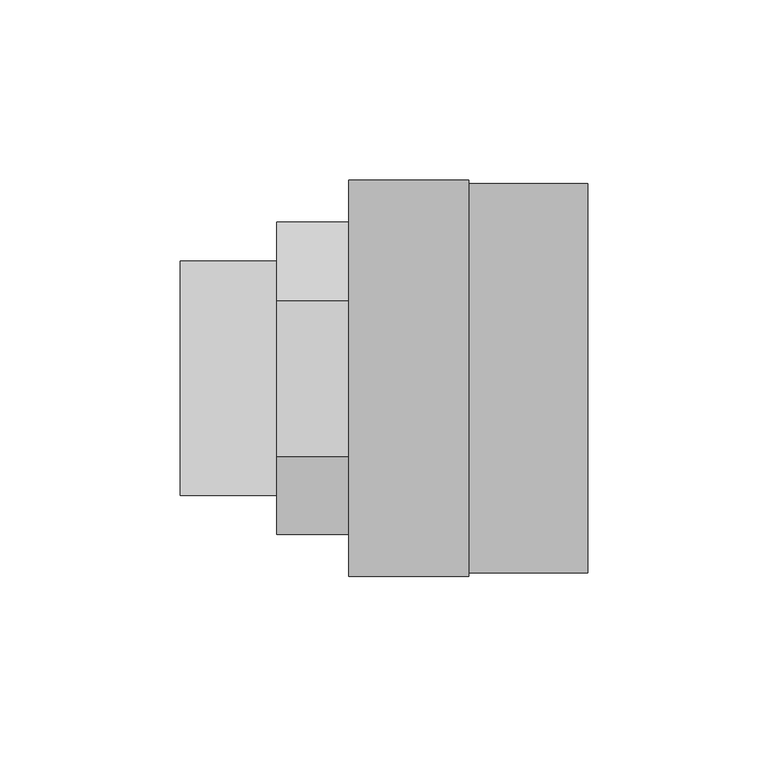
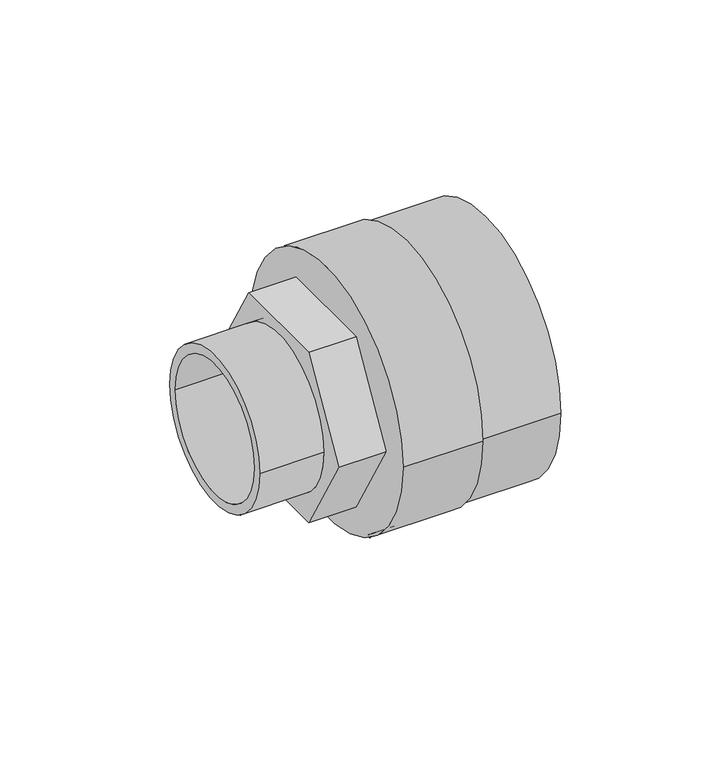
"""IFC4 building model written with IfcOpenShell, lengths in millimetres: pipe fitting geometry, NIRON RED termofusion roscado enlace rosca macho hexagonal : Estándar."""

from ifc_helpers import new_model, si_unit, point, frame, origin, origin_2d, place, context, project, spatial, polyline, circle_curve, trimmed, segment, composite_curve, outline, extrude, source, transform, mapped, element, save
from ifc_brep_helpers import plane_surface, cylinder_surface, revolved_surface, advanced_brep


def pipe_fitting_97e1301d(model_context):
    return source(origin(), model_context, "Body", "SolidModel", [
        extrude(outline(composite_curve([segment(trimmed(circle_curve(origin_2d(), 32.5), [point((-32.5, 0.0))], [point((32.5, 0.0))], False, "CARTESIAN"), True, "CONTINUOUS"), segment(trimmed(circle_curve(origin_2d(), 32.5), [point((32.5, 0.0))], [point((-32.5, 0.0))], False, "CARTESIAN"), True, "CONTINUOUS")], self_intersect=False), holes=[composite_curve([segment(trimmed(circle_curve(origin_2d(), 28.5), [point((-28.5, 0.0))], [point((28.5, 0.0))], True, "CARTESIAN"), True, "CONTINUOUS"), segment(trimmed(circle_curve(origin_2d(), 28.5), [point((28.5, 0.0))], [point((-28.5, 0.0))], True, "CARTESIAN"), True, "CONTINUOUS")], self_intersect=False)]), frame((-26.7, 0.0, 0.0), z_axis=(1.0, 0.0, 0.0), x_axis=(0.0, 1.0, 0.0)), (0.0, 0.0, 1.0), 26.7),
        advanced_brep(
        [(53.3, 55.0, 0.0), (53.3, -55.0, 0.0), (20.0, 55.0, 0.0), (20.0, -55.0, 0.0), (20.0, -32.5, 0.0), (20.0, 32.5, 0.0), (23.7, 32.5, 0.0), (23.7, -32.5, 0.0)],
        [
            (0, 1, circle_curve(frame((53.3, 0.0, 0.0), z_axis=(1.0, 0.0, 0.0), x_axis=(0.0, -1.0, 0.0)), 55.0)),
            (1, 0, circle_curve(frame((53.3, 0.0, 0.0), z_axis=(1.0, 0.0, 0.0), x_axis=(0.0, -1.0, 0.0)), 55.0)),
            (2, 3, circle_curve(frame((20.0, 0.0, 0.0), z_axis=(-1.0, 0.0, 0.0), x_axis=(0.0, -1.0, 0.0)), 55.0)),
            (3, 2, circle_curve(frame((20.0, 0.0, 0.0), z_axis=(-1.0, 0.0, 0.0), x_axis=(0.0, -1.0, 0.0)), 55.0)),
            (4, 5, circle_curve(frame((20.0, 0.0, 0.0), z_axis=(1.0, 0.0, 0.0), x_axis=(0.0, -1.0, 0.0)), 32.5)),
            (5, 4, circle_curve(frame((20.0, 0.0, 0.0), z_axis=(1.0, 0.0, 0.0), x_axis=(0.0, -1.0, 0.0)), 32.5)),
            (1, 3),
            (2, 0),
            (6, 7, circle_curve(frame((23.7, 0.0, 0.0), z_axis=(-1.0, 0.0, 0.0), x_axis=(0.0, -1.0, 0.0)), 32.5)),
            (7, 6, circle_curve(frame((23.7, 0.0, 0.0), z_axis=(-1.0, 0.0, 0.0), x_axis=(0.0, -1.0, 0.0)), 32.5)),
            (6, 5),
            (4, 7),
        ],
        [
            plane_surface(frame((53.3, -55.0, 0.0), z_axis=(1.0, 0.0, 0.0), x_axis=(0.0, 0.0, -1.0))),
            plane_surface(frame((20.0, -55.0, 0.0), z_axis=(-1.0, 0.0, 0.0), x_axis=(0.0, 0.0, 1.0))),
            cylinder_surface(frame((53.3, 0.0, 0.0), z_axis=(-1.0, 0.0, 0.0), x_axis=(0.0, -1.0, 0.0)), 55.0),
            plane_surface(frame((23.7, -32.5, 0.0), z_axis=(-1.0, 0.0, 0.0), x_axis=(0.0, 0.0, -1.0))),
            revolved_surface(polyline([(20.0, -32.5, 0.0), (23.7, -32.5, 0.0)]), (23.7, 0.0, 0.0), (-1.0, 0.0, 0.0)),
        ],
        [
            (0, [[1, 2]]),
            (1, [[3, 4], [5, 6]]),
            (2, [[-2, 7, -3, 8]]),
            (2, [[-1, -8, -4, -7]]),
            (3, [[9, 10]]),
            (4, [[-9, 11, -5, 12]]),
            (4, [[-10, -12, -6, -11]]),
        ],
    ),
        advanced_brep(
        [(20.0, 54.0, 0.0), (20.0, -54.0, 0.0), (20.0, -32.5, 0.0), (20.0, 32.5, 0.0), (86.3, 54.0, 0.0), (86.3, -54.0, 0.0), (23.7, 32.5, 0.0), (23.7, -32.5, 0.0)],
        [
            (0, 1, circle_curve(frame((20.0, 0.0, 0.0), z_axis=(-1.0, 0.0, 0.0), x_axis=(0.0, -1.0, 0.0)), 54.0)),
            (1, 0, circle_curve(frame((20.0, 0.0, 0.0), z_axis=(-1.0, 0.0, 0.0), x_axis=(0.0, -1.0, 0.0)), 54.0)),
            (2, 3, circle_curve(frame((20.0, 0.0, 0.0), z_axis=(1.0, 0.0, 0.0), x_axis=(0.0, -1.0, 0.0)), 32.5)),
            (3, 2, circle_curve(frame((20.0, 0.0, 0.0), z_axis=(1.0, 0.0, 0.0), x_axis=(0.0, -1.0, 0.0)), 32.5)),
            (4, 5, circle_curve(frame((86.3, 0.0, 0.0), z_axis=(1.0, 0.0, 0.0), x_axis=(0.0, -1.0, 0.0)), 54.0)),
            (5, 4, circle_curve(frame((86.3, 0.0, 0.0), z_axis=(1.0, 0.0, 0.0), x_axis=(0.0, -1.0, 0.0)), 54.0)),
            (0, 4),
            (5, 1),
            (6, 7, circle_curve(frame((23.7, 0.0, 0.0), z_axis=(-1.0, 0.0, 0.0), x_axis=(0.0, -1.0, 0.0)), 32.5)),
            (7, 6, circle_curve(frame((23.7, 0.0, 0.0), z_axis=(-1.0, 0.0, 0.0), x_axis=(0.0, -1.0, 0.0)), 32.5)),
            (6, 3),
            (2, 7),
        ],
        [
            plane_surface(frame((20.0, -54.0, 0.0), z_axis=(-1.0, 0.0, 0.0), x_axis=(0.0, 0.0, 1.0))),
            plane_surface(frame((86.3, -54.0, 0.0), z_axis=(1.0, 0.0, 0.0), x_axis=(0.0, 0.0, -1.0))),
            cylinder_surface(frame((86.3, 0.0, 0.0), z_axis=(-1.0, 0.0, 0.0), x_axis=(0.0, -1.0, 0.0)), 54.0),
            plane_surface(frame((23.7, -32.5, 0.0), z_axis=(-1.0, 0.0, 0.0), x_axis=(0.0, 0.0, -1.0))),
            revolved_surface(polyline([(20.0, -32.5, 0.0), (23.7, -32.5, 0.0)]), (23.7, 0.0, 0.0), (-1.0, 0.0, 0.0)),
        ],
        [
            (0, [[1, 2], [3, 4]]),
            (1, [[5, 6]]),
            (2, [[-1, 7, -6, 8]]),
            (2, [[-2, -8, -5, -7]]),
            (3, [[9, 10]]),
            (4, [[-9, 11, -3, 12]]),
            (4, [[-10, -12, -4, -11]]),
        ],
    ),
        advanced_brep(
        [(45.0, -21.6506351, -37.5), (45.0, 21.6506351, -37.5), (45.0, 43.3012702, 0.0), (45.0, 21.6506351, 37.5), (45.0, -21.6506351, 37.5), (45.0, -43.3012702, 0.0), (0.0, -21.6506351, -37.5), (0.0, -43.3012702, 0.0), (0.0, -21.6506351, 37.5), (0.0, 21.6506351, 37.5), (0.0, 43.3012702, 0.0), (0.0, 21.6506351, -37.5), (0.0, -32.5, 0.0), (0.0, 32.5, 0.0), (23.7, 32.5, 0.0), (23.7, -32.5, 0.0)],
        [
            (0, 1),
            (1, 2),
            (2, 3),
            (3, 4),
            (4, 5),
            (5, 0),
            (6, 7),
            (7, 8),
            (8, 9),
            (9, 10),
            (10, 11),
            (11, 6),
            (12, 13, circle_curve(frame((0.0, 0.0, 0.0), z_axis=(1.0, 0.0, 0.0), x_axis=(0.0, -1.0, 0.0)), 32.5)),
            (13, 12, circle_curve(frame((0.0, 0.0, 0.0), z_axis=(1.0, 0.0, 0.0), x_axis=(0.0, -1.0, 0.0)), 32.5)),
            (0, 6),
            (11, 1),
            (10, 2),
            (9, 3),
            (8, 4),
            (7, 5),
            (14, 15, circle_curve(frame((23.7, 0.0, 0.0), z_axis=(-1.0, 0.0, 0.0), x_axis=(0.0, -1.0, 0.0)), 32.5)),
            (15, 14, circle_curve(frame((23.7, 0.0, 0.0), z_axis=(-1.0, 0.0, 0.0), x_axis=(0.0, -1.0, 0.0)), 32.5)),
            (14, 13),
            (12, 15),
        ],
        [
            plane_surface(frame((45.0, 0.0, 0.0), z_axis=(1.0, 0.0, 0.0), x_axis=(0.0, 0.0, 1.0))),
            plane_surface(frame((0.0, 0.0, 0.0), z_axis=(-1.0, 0.0, 0.0), x_axis=(0.0, 0.0, 1.0))),
            plane_surface(frame((45.0, -21.6506351, -37.5), z_axis=(0.0, 0.0, -1.0), x_axis=(-1.0, 0.0, 0.0))),
            plane_surface(frame((45.0, 21.6506351, -37.5), z_axis=(0.0, 0.8660254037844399, -0.4999999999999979), x_axis=(-1.0, 0.0, 0.0))),
            plane_surface(frame((45.0, 43.3012702, 0.0), z_axis=(0.0, 0.866025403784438, 0.500000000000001), x_axis=(-1.0, 0.0, 0.0))),
            plane_surface(frame((45.0, 21.6506351, 37.5), z_axis=(0.0, 0.0, 1.0), x_axis=(-1.0, 0.0, 0.0))),
            plane_surface(frame((45.0, -21.6506351, 37.5), z_axis=(0.0, -0.8660254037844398, 0.49999999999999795), x_axis=(-1.0, 0.0, 0.0))),
            plane_surface(frame((45.0, -43.3012702, 0.0), z_axis=(0.0, -0.8660254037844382, -0.500000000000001), x_axis=(-1.0, 0.0, 0.0))),
            plane_surface(frame((23.7, -32.5, 0.0), z_axis=(-1.0, 0.0, 0.0), x_axis=(0.0, 0.0, -1.0))),
            revolved_surface(polyline([(0.0, -32.5, 0.0), (23.7, -32.5, 0.0)]), (23.7, 0.0, 0.0), (-1.0, 0.0, 0.0)),
        ],
        [
            (0, [[1, 2, 3, 4, 5, 6]]),
            (1, [[7, 8, 9, 10, 11, 12], [13, 14]]),
            (2, [[-1, 15, -12, 16]]),
            (3, [[-2, -16, -11, 17]]),
            (4, [[-3, -17, -10, 18]]),
            (5, [[-4, -18, -9, 19]]),
            (6, [[-5, -19, -8, 20]]),
            (7, [[-6, -20, -7, -15]]),
            (8, [[21, 22]]),
            (9, [[-21, 23, -13, 24]]),
            (9, [[-22, -24, -14, -23]]),
        ],
    ),
    ])


if __name__ == "__main__":
    model = new_model("IFC4")
    model_context = context("Model", 3, world=origin())
    ifc_project = project(units=[si_unit("LENGTHUNIT", "METRE", prefix="MILLI")], contexts=[model_context])
    site = spatial("IfcSite", under=ifc_project)
    building = spatial("IfcBuilding", under=site)
    placement = place(None, origin())
    pipe_fitting_shape = pipe_fitting_97e1301d(model_context)
    element("IfcPipeFitting", 1, ObjectType="NIRON RED termofusion roscado enlace rosca macho hexagonal : Estándar", at=placement, inside=building, context=model_context, shape_type="MappedRepresentation", body=[
        mapped(pipe_fitting_shape, transform((0.0, 0.0, 0.0), x_axis=(1.0, 0.0, 0.0), y_axis=(0.0, 1.0, 0.0), z_axis=(0.0, 0.0, 1.0))),
    ])
    save(model, "model.ifc")
